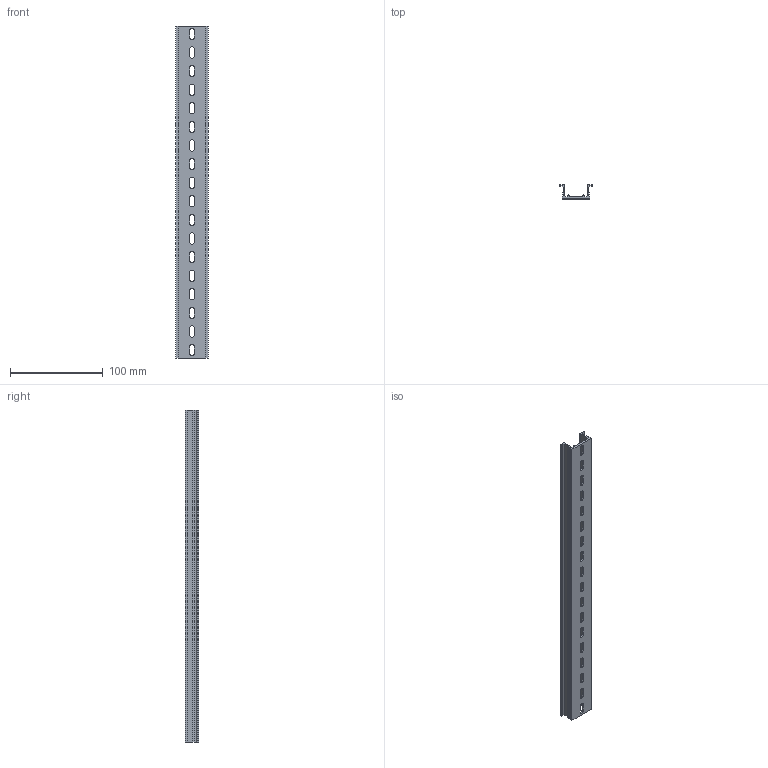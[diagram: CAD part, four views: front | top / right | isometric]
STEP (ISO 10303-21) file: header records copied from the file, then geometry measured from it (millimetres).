
FILE_DESCRIPTION(/* description */ (''),/* implementation_level */ '2;1');
FILE_NAME(/* name */ '22649-(TKB KD-18)HP 3D.stp',/* time_stamp */ '2024-12-05T14:00:24+09:00',/* author */ ('usercadg104'),/* organization */ (''),/* preprocessor_version */ 'ST-DEVELOPER v19.2',/* originating_system */ 'Autodesk Inventor 2023',/* authorisation */ '');
FILE_SCHEMA (('CONFIG_CONTROL_DESIGN'));
Length unit declared in the file: millimetre
Products named in the file (1): TKB KD-3(林)
Bounding box: 35 x 15 x 357 mm (x, y, z)
Volume: 41759.1 mm3; surface area: 48361.2 mm2
Topology: 1 solids, 1 shells, 112 faces, 330 edges, 220 vertices
Faces by surface type: plane 72, cylinder 40
Entity records: 3849 total; most frequent: CARTESIAN_POINT 663, ORIENTED_EDGE 660, DIRECTION 636, EDGE_CURVE 330, LINE 250, VECTOR 250, VERTEX_POINT 220, AXIS2_PLACEMENT_3D 193
